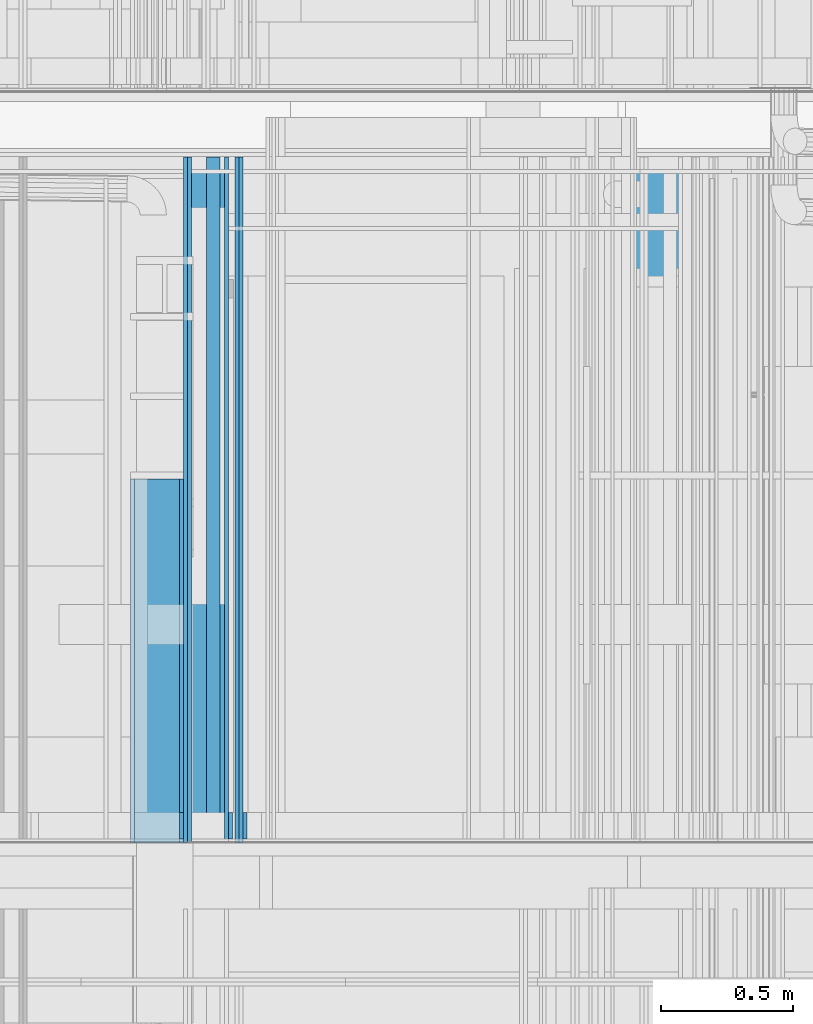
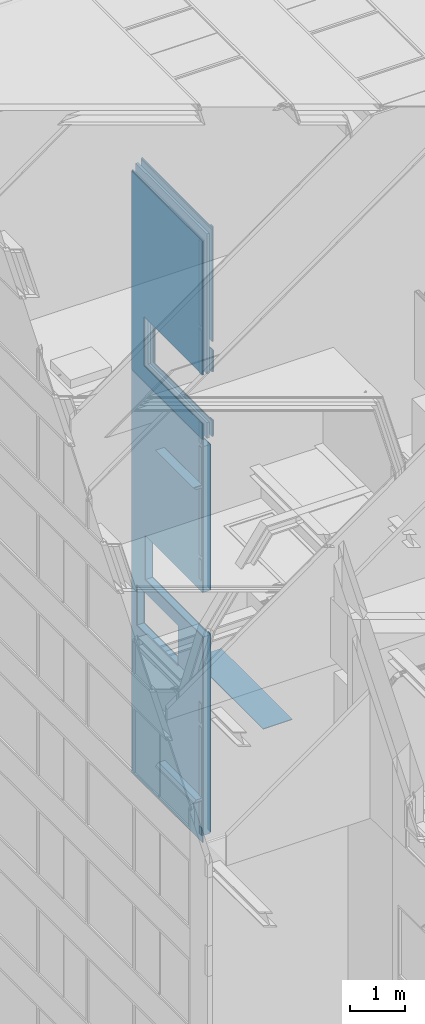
# One storey, part 92 of 583: 27 building element parts, 4 openings, 5 elements without a shape of their own.
"""IFC2X3 building model written with IfcOpenShell, lengths in metres."""

from ifc_helpers import new_model, entity, si_unit, converted_unit, derived_unit, money_unit, direction, frame, frame_2d, origin_with_axes, place, context, subcontext, project, spatial, polyline, rectangle, outline, extrude, material, type_object, element, aggregate, save


model = new_model("IFC2X3")

# Units and contexts
model_context = context("Model", 3, precision=1e-05, world=origin_with_axes(), true_north=direction((0.0, 1.0)))
body_context = subcontext(model_context, "Body", "Model", "MODEL_VIEW", scale=1.0)
ifc_project = project(units=[si_unit("LENGTHUNIT", "METRE"), si_unit("AREAUNIT", "SQUARE_METRE"), si_unit("VOLUMEUNIT", "CUBIC_METRE"), si_unit("ABSORBEDDOSEUNIT", "GRAY"), si_unit("AMOUNTOFSUBSTANCEUNIT", "MOLE"), si_unit("DOSEEQUIVALENTUNIT", "SIEVERT"), si_unit("ELECTRICCAPACITANCEUNIT", "FARAD"), si_unit("ELECTRICCHARGEUNIT", "COULOMB"), si_unit("ELECTRICCONDUCTANCEUNIT", "SIEMENS"), si_unit("ELECTRICCURRENTUNIT", "AMPERE"), si_unit("ELECTRICRESISTANCEUNIT", "OHM"), si_unit("ELECTRICVOLTAGEUNIT", "VOLT"), si_unit("ENERGYUNIT", "JOULE"), si_unit("FORCEUNIT", "NEWTON"), si_unit("FREQUENCYUNIT", "HERTZ"), si_unit("ILLUMINANCEUNIT", "LUX"), si_unit("INDUCTANCEUNIT", "HENRY"), si_unit("LUMINOUSFLUXUNIT", "LUMEN"), si_unit("LUMINOUSINTENSITYUNIT", "CANDELA"), si_unit("MAGNETICFLUXDENSITYUNIT", "TESLA"), si_unit("MAGNETICFLUXUNIT", "WEBER"), si_unit("MASSUNIT", "GRAM"), converted_unit("PLANEANGLEUNIT", "degree", entity("IfcReal", 0.0174532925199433), si_unit("PLANEANGLEUNIT", "RADIAN"), dimensions=[0, 0, 0, 0, 0, 0, 0]), si_unit("POWERUNIT", "WATT"), si_unit("PRESSUREUNIT", "PASCAL"), si_unit("RADIOACTIVITYUNIT", "BECQUEREL"), si_unit("SOLIDANGLEUNIT", "STERADIAN"), si_unit("THERMODYNAMICTEMPERATUREUNIT", "KELVIN"), si_unit("TIMEUNIT", "SECOND"), derived_unit("ACCELERATIONUNIT", [(si_unit("LENGTHUNIT", "METRE"), 1), (si_unit("TIMEUNIT", "SECOND"), -2)]), derived_unit("ANGULARVELOCITYUNIT", [(converted_unit("PLANEANGLEUNIT", "degree", entity("IfcReal", 0.0174532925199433), si_unit("PLANEANGLEUNIT", "RADIAN"), dimensions=[0, 0, 0, 0, 0, 0, 0]), 1), (si_unit("TIMEUNIT", "SECOND"), -1)]), derived_unit("CURVATUREUNIT", [(converted_unit("PLANEANGLEUNIT", "degree", entity("IfcReal", 0.0174532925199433), si_unit("PLANEANGLEUNIT", "RADIAN"), dimensions=[0, 0, 0, 0, 0, 0, 0]), 1), (si_unit("LENGTHUNIT", "METRE"), -1)]), derived_unit("DYNAMICVISCOSITYUNIT", [(si_unit("PRESSUREUNIT", "PASCAL"), 1), (si_unit("TIMEUNIT", "SECOND"), 1)]), derived_unit("HEATFLUXDENSITYUNIT", [(si_unit("POWERUNIT", "WATT"), 1), (si_unit("LENGTHUNIT", "METRE"), -2)]), derived_unit("HEATINGVALUEUNIT", [(si_unit("ENERGYUNIT", "JOULE"), 1), (si_unit("MASSUNIT", "GRAM"), -1)]), derived_unit("INTEGERCOUNTRATEUNIT", [(si_unit("TIMEUNIT", "SECOND"), -1)]), derived_unit("IONCONCENTRATIONUNIT", [(si_unit("MASSUNIT", "GRAM"), 1), (si_unit("VOLUMEUNIT", "CUBIC_METRE"), -1)]), derived_unit("ISOTHERMALMOISTURECAPACITYUNIT", [(si_unit("VOLUMEUNIT", "CUBIC_METRE"), 1), (si_unit("MASSUNIT", "GRAM"), -1)]), derived_unit("KINEMATICVISCOSITYUNIT", [(si_unit("AREAUNIT", "SQUARE_METRE"), 1), (si_unit("TIMEUNIT", "SECOND"), -1)]), derived_unit("LINEARFORCEUNIT", [(si_unit("FORCEUNIT", "NEWTON"), 1), (si_unit("LENGTHUNIT", "METRE"), -1)]), derived_unit("LINEARMOMENTUNIT", [(si_unit("FORCEUNIT", "NEWTON"), 1), (si_unit("LENGTHUNIT", "METRE"), -1)]), derived_unit("LINEARSTIFFNESSUNIT", [(si_unit("FORCEUNIT", "NEWTON"), 1), (si_unit("LENGTHUNIT", "METRE"), -1)]), derived_unit("LINEARVELOCITYUNIT", [(si_unit("LENGTHUNIT", "METRE"), 1), (si_unit("TIMEUNIT", "SECOND"), -1)]), derived_unit("LUMINOUSINTENSITYDISTRIBUTIONUNIT", [(si_unit("LUMINOUSINTENSITYUNIT", "CANDELA"), 1), (si_unit("LUMINOUSFLUXUNIT", "LUMEN"), -1)]), derived_unit("MASSDENSITYUNIT", [(si_unit("MASSUNIT", "GRAM"), 1), (si_unit("VOLUMEUNIT", "CUBIC_METRE"), -1)]), derived_unit("MASSFLOWRATEUNIT", [(si_unit("MASSUNIT", "GRAM"), 1), (si_unit("TIMEUNIT", "SECOND"), -1)]), derived_unit("MASSPERLENGTHUNIT", [(si_unit("MASSUNIT", "GRAM"), 1), (si_unit("LENGTHUNIT", "METRE"), -1)]), derived_unit("MODULUSOFELASTICITYUNIT", [(si_unit("FORCEUNIT", "NEWTON"), 1), (si_unit("AREAUNIT", "SQUARE_METRE"), -1)]), derived_unit("MODULUSOFLINEARSUBGRADEREACTIONUNIT", [(si_unit("FORCEUNIT", "NEWTON"), 1), (si_unit("LENGTHUNIT", "METRE"), -2)]), derived_unit("MODULUSOFROTATIONALSUBGRADEREACTIONUNIT", [(si_unit("FORCEUNIT", "NEWTON"), 1), (si_unit("LENGTHUNIT", "METRE"), 1)]), derived_unit("MODULUSOFSUBGRADEREACTIONUNIT", [(si_unit("FORCEUNIT", "NEWTON"), 1), (si_unit("VOLUMEUNIT", "CUBIC_METRE"), -1)]), derived_unit("MOISTUREDIFFUSIVITYUNIT", [(si_unit("VOLUMEUNIT", "CUBIC_METRE"), 1), (si_unit("TIMEUNIT", "SECOND"), -1)]), derived_unit("MOLECULARWEIGHTUNIT", [(si_unit("MASSUNIT", "GRAM"), 1), (si_unit("AMOUNTOFSUBSTANCEUNIT", "MOLE"), -1)]), derived_unit("PLANARFORCEUNIT", [(si_unit("FORCEUNIT", "NEWTON"), 1), (si_unit("LENGTHUNIT", "METRE"), -2)]), derived_unit("ROTATIONALFREQUENCYUNIT", [(si_unit("TIMEUNIT", "SECOND"), -1)]), derived_unit("ROTATIONALMASSUNIT", [(si_unit("MASSUNIT", "GRAM"), 1), (si_unit("LENGTHUNIT", "METRE"), 2)]), derived_unit("ROTATIONALSTIFFNESSUNIT", [(si_unit("FORCEUNIT", "NEWTON"), 1), (si_unit("LENGTHUNIT", "METRE"), 1), (converted_unit("PLANEANGLEUNIT", "degree", entity("IfcReal", 0.0174532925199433), si_unit("PLANEANGLEUNIT", "RADIAN"), dimensions=[0, 0, 0, 0, 0, 0, 0]), -1)]), derived_unit("SECTIONAREAINTEGRALUNIT", [(si_unit("LENGTHUNIT", "METRE"), 5)]), derived_unit("SECTIONMODULUSUNIT", [(si_unit("LENGTHUNIT", "METRE"), 3)]), derived_unit("SHEARMODULUSUNIT", [(si_unit("FORCEUNIT", "NEWTON"), 1), (si_unit("AREAUNIT", "SQUARE_METRE"), -1)]), derived_unit("SOUNDPOWERUNIT", [(si_unit("ENERGYUNIT", "JOULE"), 1), (si_unit("TIMEUNIT", "SECOND"), -1)]), derived_unit("SPECIFICHEATCAPACITYUNIT", [(si_unit("FORCEUNIT", "NEWTON"), 1), (si_unit("MASSUNIT", "GRAM"), -1), (si_unit("THERMODYNAMICTEMPERATUREUNIT", "KELVIN"), -1)]), derived_unit("TEMPERATUREGRADIENTUNIT", [(si_unit("THERMODYNAMICTEMPERATUREUNIT", "KELVIN"), 1), (si_unit("LENGTHUNIT", "METRE"), -1)]), derived_unit("THERMALADMITTANCEUNIT", [(si_unit("POWERUNIT", "WATT"), 1), (si_unit("AREAUNIT", "SQUARE_METRE"), -1), (si_unit("THERMODYNAMICTEMPERATUREUNIT", "KELVIN"), -1)]), derived_unit("THERMALCONDUCTANCEUNIT", [(si_unit("POWERUNIT", "WATT"), 1), (si_unit("LENGTHUNIT", "METRE"), -1), (si_unit("THERMODYNAMICTEMPERATUREUNIT", "KELVIN"), -1)]), derived_unit("THERMALEXPANSIONCOEFFICIENTUNIT", [(si_unit("THERMODYNAMICTEMPERATUREUNIT", "KELVIN"), -1)]), derived_unit("THERMALRESISTANCEUNIT", [(si_unit("AREAUNIT", "SQUARE_METRE"), 1), (si_unit("POWERUNIT", "WATT"), -1)]), derived_unit("THERMALTRANSMITTANCEUNIT", [(si_unit("POWERUNIT", "WATT"), 1), (si_unit("AREAUNIT", "SQUARE_METRE"), -1), (si_unit("THERMODYNAMICTEMPERATUREUNIT", "KELVIN"), -1)]), derived_unit("TORQUEUNIT", [(si_unit("FORCEUNIT", "NEWTON"), 1), (si_unit("LENGTHUNIT", "METRE"), 1)]), derived_unit("VAPORPERMEABILITYUNIT", [(si_unit("MASSUNIT", "GRAM"), 1), (si_unit("TIMEUNIT", "SECOND"), -1)]), derived_unit("VOLUMETRICFLOWRATEUNIT", [(si_unit("VOLUMEUNIT", "CUBIC_METRE"), 1), (si_unit("TIMEUNIT", "SECOND"), -1)]), derived_unit("WARPINGCONSTANTUNIT", [(si_unit("LENGTHUNIT", "METRE"), 6)]), derived_unit("WARPINGMOMENTUNIT", [(si_unit("FORCEUNIT", "NEWTON"), 1), (si_unit("LENGTHUNIT", "METRE"), 2)]), money_unit("GBP")], contexts=[model_context])

# Site, building, storey
site_placement = place(None, origin_with_axes())
site = spatial("IfcSite", under=ifc_project, at=site_placement, Name="Site", CompositionType="ELEMENT")
building_placement = place(site_placement, origin_with_axes())
building = spatial("IfcBuilding", under=site, at=building_placement, Name="Building01", CompositionType="ELEMENT")
storey_placement = place(building_placement, frame((0.0, 0.0, 20.78), z_axis=(0.0, 0.0, 1.0), x_axis=(1.0, 0.0, 0.0)))
storey = spatial("IfcBuildingStorey", under=building, at=storey_placement, Name="RL", CompositionType="ELEMENT", Elevation=20.78)

# Wall, building element part
wall_type_1 = type_object("IfcWallType", Name="SHE_A-Walls_Type03a_BlockworkWall_170mm", PredefinedType="NOTDEFINED")
wall_1_placement = place(storey_placement, frame((6.263, 12.13, -9.635), z_axis=(0.0, 1.0, 0.0), x_axis=(1.0, 0.0, 0.0)))
wall_1 = element("IfcWall", 1, at=wall_1_placement, inside=storey, type_object=wall_type_1, Name="4B", ObjectType="SHE_A-Walls_Type03a_BlockworkWall_170mm")
ifc_material_1 = material(Name="A_BSUK_WallInternal_Finishes_Plaster")
building_element_part_1_placement = place(wall_1_placement, origin_with_axes())
building_element_part_1 = element("IfcBuildingElementPart", 2, at=building_element_part_1_placement, material=ifc_material_1, Name="3", context=body_context, shape_type="SweptSolid", body=[
    extrude(outline(polyline([(0.587, 0.015), (-0.013, 0.015), (-0.013, 0.0), (0.602, 0.0), (0.587, 0.015)])), origin_with_axes(), (0.0, 0.0, 1.0), 2.59),
])
aggregate(wall_1, [building_element_part_1])

# Wall, openings, building element parts
wall_type_2 = type_object("IfcWallType", Name="SHE_A-Walls_Type01c_Partywall_225mm_twin_tall", PredefinedType="NOTDEFINED")
wall_2_placement = place(storey_placement, frame((5.068, 12.13, -2.78), z_axis=(0.0, 1.0, 0.0), x_axis=(0.0, 0.0, 1.0)))
wall_2 = element("IfcWall", 3, at=wall_2_placement, inside=storey, type_object=wall_type_2, Name="1C", ObjectType="SHE_A-Walls_Type01c_Partywall_225mm_twin_tall")
opening_1_placement = place(wall_2_placement, frame((0.35, -0.475, -0.03), z_axis=(0.0, 0.0, 1.0), x_axis=(1.0, 0.0, 0.0)))
element("IfcOpeningElement", 4, at=opening_1_placement, cuts=wall_2, Name="Opening", ObjectType="Opening", context=body_context, shape_type="SweptSolid", body=[
    extrude(rectangle(XDim=1.084, YDim=2.142, at=frame_2d((0.542, 1.071), x_axis=(-1.0, 0.0))), frame((0.0, 0.7875, 0.0), z_axis=(0.0, -1.0, 0.0), x_axis=(1.0, 0.0, 0.0)), (0.0, 0.0, 1.0), 1.575),
])
opening_2_placement = place(wall_2_placement, frame((0.35, -0.088, 0.0), z_axis=(0.0, 0.0, 1.0), x_axis=(1.0, 0.0, 0.0)))
element("IfcOpeningElement", 5, at=opening_2_placement, cuts=wall_2, Name="Opening", ObjectType="Opening", context=body_context, shape_type="SweptSolid", body=[
    extrude(rectangle(XDim=2.142, YDim=1.084, at=frame_2d((0.542, 1.071), x_axis=(0.0, -1.0))), frame((0.0, 0.207, 0.0), z_axis=(0.0, -1.0, 0.0), x_axis=(1.0, 0.0, 0.0)), (0.0, 0.0, 1.0), 0.414),
])
ifc_material_2 = material(Name="A_BSUK_Insulation")
placement_1 = place(wall_2_placement, origin_with_axes())
building_element_part_2 = element("IfcBuildingElementPart", 6, at=placement_1, material=ifc_material_2, Name="1", context=body_context, shape_type="SweptSolid", body=[
    extrude(rectangle(XDim=4.538, YDim=0.05, at=frame_2d((2.269, 0.025), x_axis=(-1.0, 0.0))), origin_with_axes(), (0.0, 0.0, 1.0), 2.59),
])
ifc_material_3 = material(Name="A_BSUK_Walls_Timber")
building_element_part_3 = element("IfcBuildingElementPart", 7, at=placement_1, material=ifc_material_3, Name="2", context=body_context, shape_type="SweptSolid", body=[
    extrude(outline(polyline([(1.897661, 0.152), (0.015, 0.152), (0.0, 0.137), (1.897661, 0.137), (1.897661, 0.152)])), frame((0.0, 0.0, 0.015), z_axis=(0.0, 0.0, 1.0), x_axis=(1.0, 0.0, 0.0)), (0.0, 0.0, 1.0), 0.1),
])
ifc_material_4 = material(Name="A_BSUK_WallInternal_Finishes_Plasterboard")
building_element_part_4 = element("IfcBuildingElementPart", 8, at=placement_1, material=ifc_material_4, Name="3", context=body_context, shape_type="SweptSolid", body=[
    extrude(rectangle(XDim=1.912661, YDim=0.015, at=frame_2d((0.956331, 0.1295), x_axis=(-1.0, 0.0))), origin_with_axes(), (0.0, 0.0, 1.0), 2.59),
])
building_element_part_5 = element("IfcBuildingElementPart", 9, at=placement_1, material=ifc_material_4, Name="4", context=body_context, shape_type="SweptSolid", body=[
    extrude(rectangle(XDim=1.927661, YDim=0.015, at=frame_2d((0.963831, 0.1145), x_axis=(-1.0, 0.0))), origin_with_axes(), (0.0, 0.0, 1.0), 2.59),
])
building_element_part_6 = element("IfcBuildingElementPart", 10, at=placement_1, material=ifc_material_4, Name="5", context=body_context, shape_type="SweptSolid", body=[
    extrude(outline(polyline([(4.43, -0.058), (0.0, -0.058), (0.0, -0.073), (4.415, -0.073), (4.43, -0.058)])), origin_with_axes(), (0.0, 0.0, 1.0), 2.59),
])
building_element_part_7 = element("IfcBuildingElementPart", 11, at=placement_1, material=ifc_material_4, Name="6", context=body_context, shape_type="SweptSolid", body=[
    extrude(outline(polyline([(4.415, -0.073), (0.0, -0.073), (0.0, -0.088), (4.4, -0.088), (4.415, -0.073)])), origin_with_axes(), (0.0, 0.0, 1.0), 2.59),
])
building_element_part_8 = element("IfcBuildingElementPart", 12, at=placement_1, material=ifc_material_3, Name="7", context=body_context, shape_type="SweptSolid", body=[
    extrude(rectangle(XDim=2.415, YDim=0.015, at=frame_2d((1.2075, -0.0955), x_axis=(-1.0, 0.0))), frame((0.0, 0.0, 0.015), z_axis=(0.0, 0.0, 1.0), x_axis=(1.0, 0.0, 0.0)), (0.0, 0.0, 1.0), 0.1),
])
building_element_part_9 = element("IfcBuildingElementPart", 13, at=placement_1, material=ifc_material_4, Name="8", context=body_context, shape_type="SweptSolid", body=[
    extrude(outline(polyline([(4.415, -0.073), (0.0, -0.073), (0.0, -0.088), (4.4, -0.088), (4.415, -0.073)])), origin_with_axes(), (0.0, 0.0, 1.0), 2.59),
])
building_element_part_10 = element("IfcBuildingElementPart", 14, at=placement_1, material=ifc_material_3, Name="9", context=body_context, shape_type="SweptSolid", body=[
    extrude(outline(polyline([(4.64, 0.152), (2.137661, 0.152), (2.137661, 0.137), (4.625, 0.137), (4.64, 0.152)])), frame((0.0, 0.0, 0.015), z_axis=(0.0, 0.0, 1.0), x_axis=(1.0, 0.0, 0.0)), (0.0, 0.0, 1.0), 0.1),
])
building_element_part_11 = element("IfcBuildingElementPart", 15, at=placement_1, material=ifc_material_4, Name="10", context=body_context, shape_type="SweptSolid", body=[
    extrude(outline(polyline([(4.625, 0.137), (2.107661, 0.137), (2.107661, 0.122), (4.61, 0.122), (4.625, 0.137)])), origin_with_axes(), (0.0, 0.0, 1.0), 2.59),
])
building_element_part_12 = element("IfcBuildingElementPart", 16, at=placement_1, material=ifc_material_4, Name="11", context=body_context, shape_type="SweptSolid", body=[
    extrude(outline(polyline([(4.61, 0.122), (2.107661, 0.122), (2.107661, 0.107), (4.595, 0.107), (4.61, 0.122)])), origin_with_axes(), (0.0, 0.0, 1.0), 2.59),
])
building_element_part_13 = element("IfcBuildingElementPart", 17, at=placement_1, material=ifc_material_3, Name="12", context=body_context, shape_type="SweptSolid", body=[
    extrude(outline(polyline([(4.4, -0.088), (2.51, -0.088), (2.51, -0.103), (4.385, -0.103), (4.4, -0.088)])), frame((0.0, 0.0, 0.015), z_axis=(0.0, 0.0, 1.0), x_axis=(1.0, 0.0, 0.0)), (0.0, 0.0, 1.0), 0.1),
])
aggregate(wall_2, [building_element_part_2, building_element_part_3, building_element_part_4, building_element_part_5, building_element_part_6, building_element_part_7, building_element_part_8, building_element_part_9, building_element_part_10, building_element_part_11, building_element_part_12, building_element_part_13])

# Wall, building element parts
wall_type_3 = type_object("IfcWallType", Name="SHE_A-Walls_Type05c_PreWallShell_65mm", PredefinedType="NOTDEFINED")
wall_3_placement = place(storey_placement, frame((4.845, 12.13, -3.8375), z_axis=(0.0, 1.0, 0.0), x_axis=(1.0, 0.0, 0.0)))
wall_3 = element("IfcWall", 18, at=wall_3_placement, inside=storey, type_object=wall_type_3, Name="5C", ObjectType="SHE_A-Walls_Type05c_PreWallShell_65mm")
ifc_material_5 = material(Name="A_BSUK_OpeningsClearance")
placement_2 = place(wall_3_placement, origin_with_axes())
building_element_part_14 = element("IfcBuildingElementPart", 19, at=placement_2, material=ifc_material_5, Name="1", context=body_context, shape_type="SweptSolid", body=[
    extrude(outline(polyline([(0.15, 0.0), (0.0, 0.0), (-0.05, -0.05), (0.15, -0.05), (0.15, 0.0)])), origin_with_axes(), (0.0, 0.0, 1.0), 1.375),
])
building_element_part_15 = element("IfcBuildingElementPart", 20, at=placement_2, material=ifc_material_3, Name="2", context=body_context, shape_type="SweptSolid", body=[
    extrude(outline(polyline([(0.12, -0.05), (-0.05, -0.05), (-0.065, -0.065), (0.12, -0.065), (0.12, -0.05)])), origin_with_axes(), (0.0, 0.0, 1.0), 1.375),
])
aggregate(wall_3, [building_element_part_14, building_element_part_15])

wall_4_placement = place(storey_placement, frame((4.845, 12.13, -10.722464), z_axis=(0.0, 1.0, 0.0), x_axis=(-1.0, 0.0, 0.0)))
wall_4 = element("IfcWall", 21, at=wall_4_placement, inside=storey, type_object=wall_type_3, Name="5C", ObjectType="SHE_A-Walls_Type05c_PreWallShell_65mm")
placement_3 = place(wall_4_placement, origin_with_axes())
building_element_part_16 = element("IfcBuildingElementPart", 22, at=placement_3, material=ifc_material_5, Name="1", context=body_context, shape_type="SweptSolid", body=[
    extrude(outline(polyline([(-0.15, -0.05), (0.05, -0.05), (0.0, 0.0), (-0.15, 0.0), (-0.15, -0.05)])), origin_with_axes(), (0.0, 0.0, 1.0), 1.375),
])
building_element_part_17 = element("IfcBuildingElementPart", 23, at=placement_3, material=ifc_material_3, Name="2", context=body_context, shape_type="SweptSolid", body=[
    extrude(outline(polyline([(-0.12, -0.065), (0.065, -0.065), (0.05, -0.05), (-0.12, -0.05), (-0.12, -0.065)])), origin_with_axes(), (0.0, 0.0, 1.0), 1.375),
])
aggregate(wall_4, [building_element_part_16, building_element_part_17])

# Wall, openings, building element parts
wall_5_placement = place(storey_placement, frame((4.995, 12.13, -11.565), z_axis=(0.0, 1.0, 0.0), x_axis=(0.0, 0.0, 1.0)))
wall_5 = element("IfcWall", 24, at=wall_5_placement, inside=storey, type_object=wall_type_1, Name="4B", ObjectType="SHE_A-Walls_Type03a_BlockworkWall_170mm")
opening_3_placement = place(wall_5_placement, frame((3.218, 0.199761, 0.9), z_axis=(0.0, 0.0, 1.0), x_axis=(1.0, 0.0, 0.0)))
element("IfcOpeningElement", 25, at=opening_3_placement, cuts=wall_5, Name="Opening", ObjectType="Opening", context=body_context, shape_type="SweptSolid", body=[
    extrude(rectangle(XDim=0.9, YDim=1.5, at=frame_2d((-0.45, 0.75), x_axis=(-1.0, 0.0))), frame((0.0, -0.299642, 0.0), z_axis=(0.0, 1.0, 0.0), x_axis=(-1.0, 0.0, 0.0)), (0.0, 0.0, 1.0), 0.599284),
])
opening_4_placement = place(wall_5_placement, frame((4.41, 0.15885, 0.0), z_axis=(0.0, 0.0, 1.0), x_axis=(1.0, 0.0, 0.0)))
element("IfcOpeningElement", 26, at=opening_4_placement, cuts=wall_5, Name="Opening", ObjectType="Opening", context=body_context, shape_type="SweptSolid", body=[
    extrude(rectangle(XDim=0.984, YDim=2.1, at=frame_2d((-0.492, 1.05), x_axis=(-1.0, 0.0))), frame((0.0, -0.238275, 0.0), z_axis=(0.0, 1.0, 0.0), x_axis=(-1.0, 0.0, 0.0)), (0.0, 0.0, 1.0), 0.476551),
])
ifc_material_6 = material(Name="A_BSUK_WallsInternal_Block")
placement_4 = place(wall_5_placement, origin_with_axes())
building_element_part_18 = element("IfcBuildingElementPart", 27, at=placement_4, material=ifc_material_6, Name="1", context=body_context, shape_type="SweptSolid", body=[
    extrude(rectangle(XDim=8.63, YDim=0.14, at=frame_2d((4.315, 0.07), x_axis=(-1.0, 0.0))), origin_with_axes(), (0.0, 0.0, 1.0), 2.59),
])
building_element_part_19 = element("IfcBuildingElementPart", 28, at=placement_4, material=ifc_material_3, Name="2", context=body_context, shape_type="SweptSolid", body=[
    extrude(rectangle(XDim=8.6, YDim=0.015, at=frame_2d((4.315, 0.1625), x_axis=(-1.0, 0.0))), frame((0.0, 0.0, 0.015), z_axis=(0.0, 0.0, 1.0), x_axis=(1.0, 0.0, 0.0)), (0.0, 0.0, 1.0), 0.1),
])
building_element_part_20 = element("IfcBuildingElementPart", 29, at=placement_4, material=ifc_material_1, Name="3", context=body_context, shape_type="SweptSolid", body=[
    extrude(rectangle(XDim=8.615, YDim=0.015, at=frame_2d((4.3225, 0.1475), x_axis=(-1.0, 0.0))), origin_with_axes(), (0.0, 0.0, 1.0), 2.59),
])
building_element_part_21 = element("IfcBuildingElementPart", 30, at=placement_4, material=ifc_material_4, Name="4", context=body_context, shape_type="SweptSolid", body=[
    extrude(rectangle(XDim=8.925, YDim=0.015, at=frame_2d((4.3075, -0.0075), x_axis=(-1.0, 0.0))), origin_with_axes(), (0.0, 0.0, 1.0), 2.59),
])
building_element_part_22 = element("IfcBuildingElementPart", 31, at=placement_4, material=ifc_material_3, Name="5", context=body_context, shape_type="SweptSolid", body=[
    extrude(rectangle(XDim=0.169464, YDim=0.015, at=frame_2d((0.077268, -0.0225), x_axis=(-1.0, 0.0))), frame((0.0, 0.0, 0.015), z_axis=(0.0, 0.0, 1.0), x_axis=(1.0, 0.0, 0.0)), (0.0, 0.0, 1.0), 0.1),
])
building_element_part_23 = element("IfcBuildingElementPart", 32, at=placement_4, material=ifc_material_3, Name="6", context=body_context, shape_type="SweptSolid", body=[
    extrude(rectangle(XDim=0.4475, YDim=0.015, at=frame_2d((5.87375, -0.0225), x_axis=(-1.0, 0.0))), frame((0.0, 0.0, 0.015), z_axis=(0.0, 0.0, 1.0), x_axis=(1.0, 0.0, 0.0)), (0.0, 0.0, 1.0), 0.1),
])
building_element_part_24 = element("IfcBuildingElementPart", 33, at=placement_4, material=ifc_material_3, Name="7", context=body_context, shape_type="SweptSolid", body=[
    extrude(rectangle(XDim=0.015, YDim=0.0975, at=frame_2d((8.73625, -0.0225), x_axis=(0.0, -1.0))), frame((0.0, 0.0, 0.015), z_axis=(0.0, 0.0, 1.0), x_axis=(1.0, 0.0, 0.0)), (0.0, 0.0, 1.0), 0.1),
])
building_element_part_25 = element("IfcBuildingElementPart", 34, at=placement_4, material=ifc_material_3, Name="8", context=body_context, shape_type="SweptSolid", body=[
    extrude(rectangle(XDim=2.385, YDim=0.015, at=frame_2d((1.185036, -0.0225), x_axis=(-1.0, 0.0))), frame((0.0, 0.0, 0.015), z_axis=(0.0, 0.0, 1.0), x_axis=(1.0, 0.0, 0.0)), (0.0, 0.0, 1.0), 0.1),
])
building_element_part_26 = element("IfcBuildingElementPart", 35, at=placement_4, material=ifc_material_3, Name="9", context=body_context, shape_type="SweptSolid", body=[
    extrude(rectangle(XDim=2.4, YDim=0.015, at=frame_2d((7.3925, -0.0225), x_axis=(-1.0, 0.0))), frame((0.0, 0.0, 0.015), z_axis=(0.0, 0.0, 1.0), x_axis=(1.0, 0.0, 0.0)), (0.0, 0.0, 1.0), 0.1),
])
building_element_part_27 = element("IfcBuildingElementPart", 36, at=placement_4, material=ifc_material_3, Name="10", context=body_context, shape_type="SweptSolid", body=[
    extrude(rectangle(XDim=0.432464, YDim=0.015, at=frame_2d((2.703768, -0.0225), x_axis=(-1.0, 0.0))), frame((0.0, 0.0, 0.015), z_axis=(0.0, 0.0, 1.0), x_axis=(1.0, 0.0, 0.0)), (0.0, 0.0, 1.0), 0.1),
])
aggregate(wall_5, [building_element_part_18, building_element_part_19, building_element_part_20, building_element_part_21, building_element_part_22, building_element_part_23, building_element_part_24, building_element_part_25, building_element_part_26, building_element_part_27])

save(model, "model.ifc")
